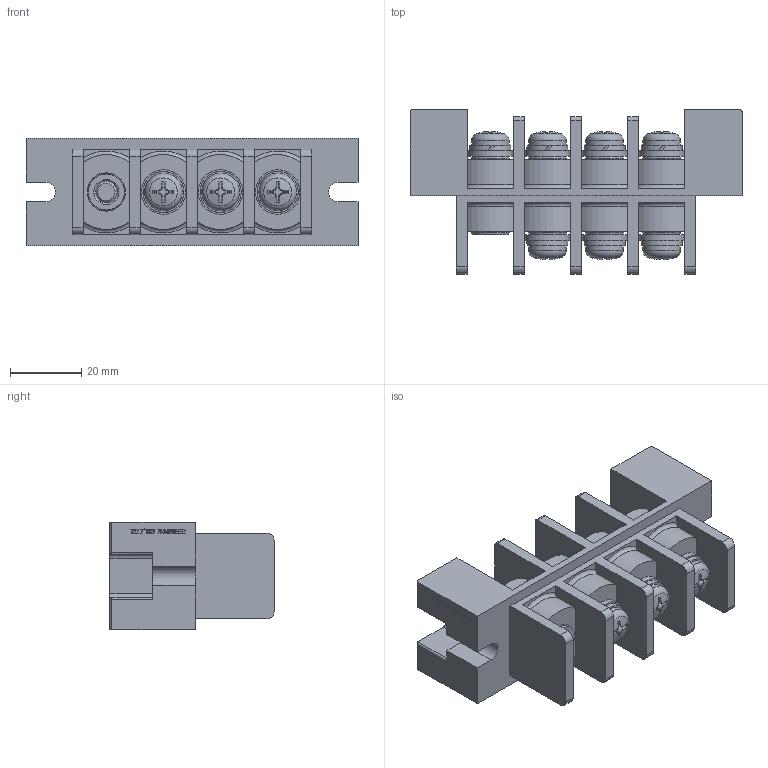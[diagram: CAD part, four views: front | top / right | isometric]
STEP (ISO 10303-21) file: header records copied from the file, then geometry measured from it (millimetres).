
FILE_DESCRIPTION(/* description */ ('Alibre Inc.'),/* implementation_level */ '2;1');
FILE_NAME(/* name */ 'export0',/* time_stamp */ '2016-01-14T19:20:23+09:00',/* author */ (''),/* organization */ (''),/* preprocessor_version */ 'ST-DEVELOPER v14',/* originating_system */ 'Alibre',/* authorisation */ '');
FILE_SCHEMA (('CONFIG_CONTROL_DESIGN'));
Length unit declared in the file: centimetre
Products named in the file (1): ID_1
Bounding box: 93 x 46 x 30 mm (x, y, z)
Volume: 58360.8 mm3; surface area: 24562.9 mm2
Topology: 1 solids, 11 shells, 620 faces, 1600 edges, 1056 vertices
Faces by surface type: plane 370, cylinder 117, bspline 52, cone 51, torus 23, sphere 7
Full cylindrical faces by diameter (mm): 4.55 x2, 6 x11, 10.5 x15, 10.75 x8, 12.5 x7
Entity records: 18806 total; most frequent: CARTESIAN_POINT 4798, ORIENTED_EDGE 3008, DIRECTION 2375, EDGE_CURVE 1504, VERTEX_POINT 1033, AXIS2_PLACEMENT_3D 930, VECTOR 879, LINE 879
